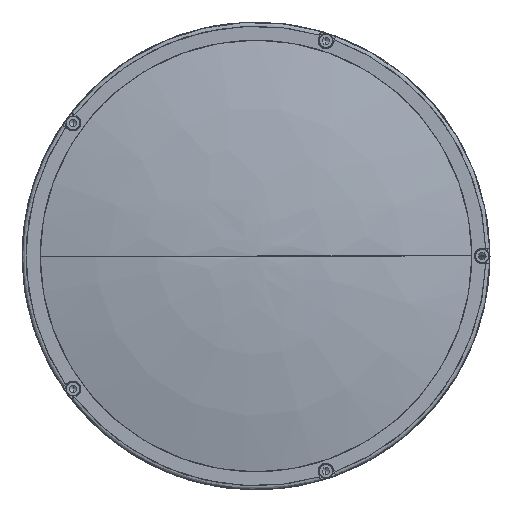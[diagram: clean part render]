
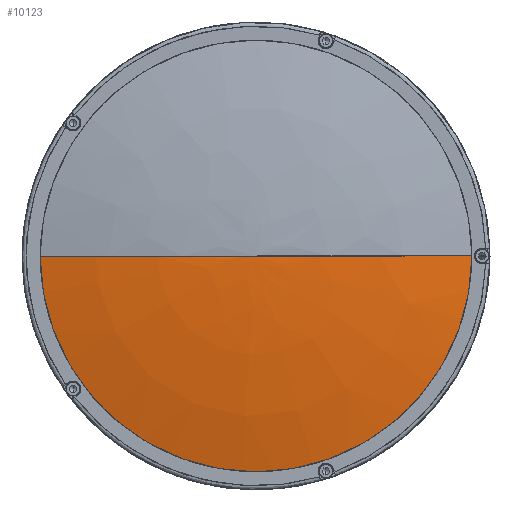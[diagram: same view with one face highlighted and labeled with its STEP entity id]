
A CAD part, left-side view. The second image highlights one B-rep face of the part: STEP entity #10123.
In plain terms, the highlighted face is a revolution surface.
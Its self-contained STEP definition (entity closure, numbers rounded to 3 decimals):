
#10123 = ADVANCED_FACE('',(#10124),#10142,.T.);
#10124 = FACE_BOUND('',#10125,.T.);
#10125 = EDGE_LOOP('',(#10126,#10156,#10175,#10194));
#10126 = ORIENTED_EDGE('',*,*,#10127,.F.);
#10127 = EDGE_CURVE('',#10128,#10130,#10132,.T.);
#10128 = VERTEX_POINT('',#10129);
#10129 = CARTESIAN_POINT('',(-362.63,0.,
    0.));
#10130 = VERTEX_POINT('',#10131);
#10131 = CARTESIAN_POINT('',(-353.104,85.,
    0.));
#10132 = SURFACE_CURVE('',#10133,(#10141),.PCURVE_S1.);
#10133 = ( BOUNDED_CURVE() B_SPLINE_CURVE(6,(#10134,#10135,#10136,#10137
    ,#10138,#10139,#10140),.UNSPECIFIED.,.F.,.F.) 
B_SPLINE_CURVE_WITH_KNOTS((7,7),(0.,1.),.PIECEWISE_BEZIER_KNOTS.) CURVE(
) GEOMETRIC_REPRESENTATION_ITEM() RATIONAL_B_SPLINE_CURVE((
    1.001,1.,1.,1.,
1.,1.,1.001)) REPRESENTATION_ITEM('') 
  );
#10134 = CARTESIAN_POINT('',(-362.63,0.,
    0.));
#10135 = CARTESIAN_POINT('',(-362.63,14.291,
    0.));
#10136 = CARTESIAN_POINT('',(-361.992,28.575,
    0.));
#10137 = CARTESIAN_POINT('',(-360.717,42.819,
    0.));
#10138 = CARTESIAN_POINT('',(-358.807,56.993,
    0.));
#10139 = CARTESIAN_POINT('',(-356.268,71.064,
    0.));
#10140 = CARTESIAN_POINT('',(-353.104,85.,
    0.));
#10141 = PCURVE('',#10142,#10151);
#10142 = SURFACE_OF_REVOLUTION('',#10143,#10148);
#10143 = CIRCLE('',#10144,384.);
#10144 = AXIS2_PLACEMENT_3D('',#10145,#10146,#10147);
#10145 = CARTESIAN_POINT('',(21.37,0.,0.));
#10146 = DIRECTION('',(-0.,0.,1.));
#10147 = DIRECTION('',(1.,0.,0.));
#10148 = AXIS1_PLACEMENT('',#10149,#10150);
#10149 = CARTESIAN_POINT('',(21.37,0.,0.));
#10150 = DIRECTION('',(1.,0.,0.));
#10151 = DEFINITIONAL_REPRESENTATION('',(#10152),#10155);
#10152 = B_SPLINE_CURVE_WITH_KNOTS('',1,(#10153,#10154),.UNSPECIFIED.,
  .F.,.F.,(2,2),(0.,1.),.PIECEWISE_BEZIER_KNOTS.);
#10153 = CARTESIAN_POINT('',(6.283,3.142));
#10154 = CARTESIAN_POINT('',(6.283,2.918));
#10155 = ( GEOMETRIC_REPRESENTATION_CONTEXT(2) 
PARAMETRIC_REPRESENTATION_CONTEXT() REPRESENTATION_CONTEXT('',''
  ) );
#10156 = ORIENTED_EDGE('',*,*,#10157,.F.);
#10157 = EDGE_CURVE('',#10158,#10128,#10160,.T.);
#10158 = VERTEX_POINT('',#10159);
#10159 = CARTESIAN_POINT('',(-362.63,0.,
    0.));
#10160 = SURFACE_CURVE('',#10161,(#10169),.PCURVE_S1.);
#10161 = ( BOUNDED_CURVE() B_SPLINE_CURVE(6,(#10162,#10163,#10164,#10165
    ,#10166,#10167,#10168),.UNSPECIFIED.,.F.,.F.) 
B_SPLINE_CURVE_WITH_KNOTS((7,7),(0.,1.),.PIECEWISE_BEZIER_KNOTS.) CURVE(
) GEOMETRIC_REPRESENTATION_ITEM() RATIONAL_B_SPLINE_CURVE((
    1.133,1.036,0.992,0.976,
0.992,1.036,1.133)) REPRESENTATION_ITEM('') 
  );
#10162 = CARTESIAN_POINT('',(-362.63,0.,
    0.));
#10163 = CARTESIAN_POINT('',(-362.63,0.,
    0.));
#10164 = CARTESIAN_POINT('',(-362.63,0.,
    0.));
#10165 = CARTESIAN_POINT('',(-362.63,0.,
    0.));
#10166 = CARTESIAN_POINT('',(-362.63,0.,
    0.));
#10167 = CARTESIAN_POINT('',(-362.63,0.,
    0.));
#10168 = CARTESIAN_POINT('',(-362.63,0.,
    0.));
#10169 = PCURVE('',#10142,#10170);
#10170 = DEFINITIONAL_REPRESENTATION('',(#10171),#10174);
#10171 = B_SPLINE_CURVE_WITH_KNOTS('',1,(#10172,#10173),.UNSPECIFIED.,
  .F.,.F.,(2,2),(0.,1.),.PIECEWISE_BEZIER_KNOTS.);
#10172 = CARTESIAN_POINT('',(3.142,3.142));
#10173 = CARTESIAN_POINT('',(6.283,3.142));
#10174 = ( GEOMETRIC_REPRESENTATION_CONTEXT(2) 
PARAMETRIC_REPRESENTATION_CONTEXT() REPRESENTATION_CONTEXT('',''
  ) );
#10175 = ORIENTED_EDGE('',*,*,#10176,.F.);
#10176 = EDGE_CURVE('',#10177,#10158,#10179,.T.);
#10177 = VERTEX_POINT('',#10178);
#10178 = CARTESIAN_POINT('',(-353.104,-85.,
    0.));
#10179 = SURFACE_CURVE('',#10180,(#10188),.PCURVE_S1.);
#10180 = ( BOUNDED_CURVE() B_SPLINE_CURVE(6,(#10181,#10182,#10183,#10184
    ,#10185,#10186,#10187),.UNSPECIFIED.,.F.,.F.) 
B_SPLINE_CURVE_WITH_KNOTS((7,7),(0.,1.),.PIECEWISE_BEZIER_KNOTS.) CURVE(
) GEOMETRIC_REPRESENTATION_ITEM() RATIONAL_B_SPLINE_CURVE((
    1.001,1.,1.,1.,
1.,1.,1.001)) REPRESENTATION_ITEM('') 
  );
#10181 = CARTESIAN_POINT('',(-353.104,-85.,
    0.));
#10182 = CARTESIAN_POINT('',(-356.268,-71.064,
    0.));
#10183 = CARTESIAN_POINT('',(-358.807,-56.993,
    0.));
#10184 = CARTESIAN_POINT('',(-360.717,-42.819,
    0.));
#10185 = CARTESIAN_POINT('',(-361.992,-28.575,
    0.));
#10186 = CARTESIAN_POINT('',(-362.63,-14.291,
    0.));
#10187 = CARTESIAN_POINT('',(-362.63,0.,
    0.));
#10188 = PCURVE('',#10142,#10189);
#10189 = DEFINITIONAL_REPRESENTATION('',(#10190),#10193);
#10190 = B_SPLINE_CURVE_WITH_KNOTS('',1,(#10191,#10192),.UNSPECIFIED.,
  .F.,.F.,(2,2),(0.,1.),.PIECEWISE_BEZIER_KNOTS.);
#10191 = CARTESIAN_POINT('',(3.142,2.918));
#10192 = CARTESIAN_POINT('',(3.142,3.142));
#10193 = ( GEOMETRIC_REPRESENTATION_CONTEXT(2) 
PARAMETRIC_REPRESENTATION_CONTEXT() REPRESENTATION_CONTEXT('',''
  ) );
#10194 = ORIENTED_EDGE('',*,*,#10195,.F.);
#10195 = EDGE_CURVE('',#10130,#10177,#10196,.T.);
#10196 = SURFACE_CURVE('',#10197,(#10209),.PCURVE_S1.);
#10197 = B_SPLINE_CURVE_WITH_KNOTS('',10,(#10198,#10199,#10200,#10201,
    #10202,#10203,#10204,#10205,#10206,#10207,#10208),.UNSPECIFIED.,.F.,
  .F.,(11,11),(0.,1.),.PIECEWISE_BEZIER_KNOTS.);
#10198 = CARTESIAN_POINT('',(-353.104,85.,
    0.));
#10199 = CARTESIAN_POINT('',(-353.104,85.,
    -26.704));
#10200 = CARTESIAN_POINT('',(-353.104,75.679,
    -53.407));
#10201 = CARTESIAN_POINT('',(-353.104,57.036,
    -76.45));
#10202 = CARTESIAN_POINT('',(-353.104,30.716,
    -92.172));
#10203 = CARTESIAN_POINT('',(-353.104,0.,
    -97.774));
#10204 = CARTESIAN_POINT('',(-353.104,-30.716,
    -92.172));
#10205 = CARTESIAN_POINT('',(-353.104,-57.036,
    -76.45));
#10206 = CARTESIAN_POINT('',(-353.104,-75.679,
    -53.407));
#10207 = CARTESIAN_POINT('',(-353.104,-85.,
    -26.704));
#10208 = CARTESIAN_POINT('',(-353.104,-85.,
    0.));
#10209 = PCURVE('',#10142,#10210);
#10210 = DEFINITIONAL_REPRESENTATION('',(#10211),#10214);
#10211 = B_SPLINE_CURVE_WITH_KNOTS('',1,(#10212,#10213),.UNSPECIFIED.,
  .F.,.F.,(2,2),(0.,1.),.PIECEWISE_BEZIER_KNOTS.);
#10212 = CARTESIAN_POINT('',(6.283,2.918));
#10213 = CARTESIAN_POINT('',(3.142,2.918));
#10214 = ( GEOMETRIC_REPRESENTATION_CONTEXT(2) 
PARAMETRIC_REPRESENTATION_CONTEXT() REPRESENTATION_CONTEXT('',''
  ) );
